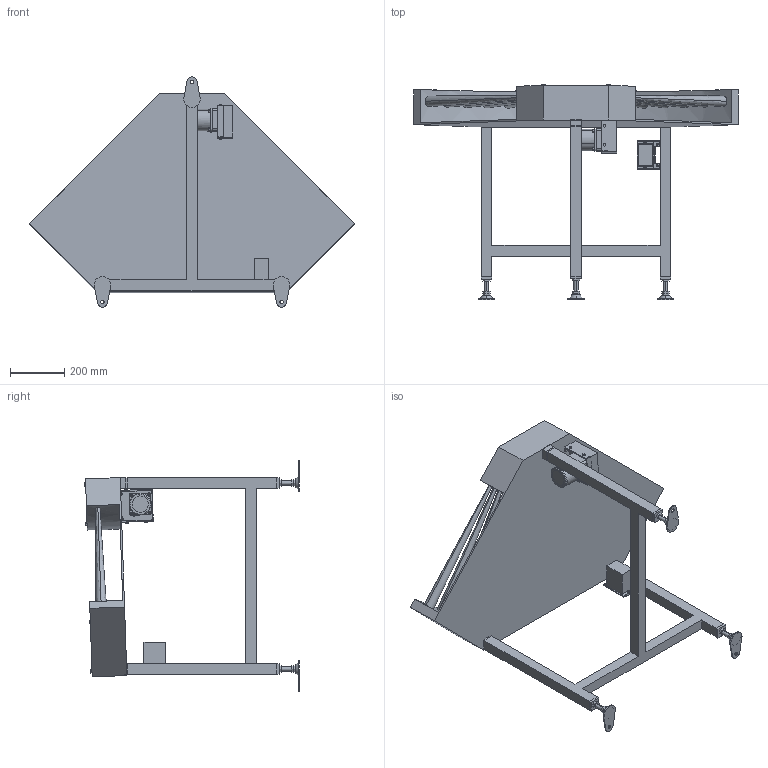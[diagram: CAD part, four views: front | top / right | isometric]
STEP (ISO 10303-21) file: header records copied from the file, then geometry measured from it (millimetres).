
FILE_DESCRIPTION( (''), '2;1');
FILE_NAME ('GT10H-303-500-L-K-75.stp','2025-02-17T15:48:38',(''),(''),'spGate 20.6.2 (****-****-****-****)','','');
FILE_SCHEMA (('AUTOMOTIVE_DESIGN'));
Length unit declared in the file: millimetre
Products named in the file (44): NewModel; TEMP_X_T-prt0; TEMP_X_T-prt1; TEMP_X_T-prt2; TEMP_X_T-prt3; TEMP_X_T-prt4; TEMP_X_T-prt5; TEMP_X_T-prt6; TEMP_X_T-prt7; TEMP_X_T-prt8; TEMP_X_T-prt9; TEMP_X_T-prt10; TEMP_X_T-prt11; TEMP_X_T-prt12; TEMP_X_T-prt13; TEMP_X_T-prt14; TEMP_X_T-prt15; TEMP_X_T-prt16; TEMP_X_T-prt17; TEMP_X_T-prt18; TEMP_X_T-prt19; TEMP_X_T-prt20; TEMP_X_T-prt21; TEMP_X_T-prt22; TEMP_X_T-prt23; TEMP_X_T-prt24; TEMP_X_T-prt25; TEMP_X_T-prt26; TEMP_X_T-prt27; TEMP_X_T-prt28; TEMP_X_T-prt29; TEMP_X_T-prt30; TEMP_X_T-prt31; TEMP_X_T-prt32; TEMP_X_T-prt33; TEMP_X_T-prt34; TEMP_X_T-prt35; TEMP_X_T-prt36; TEMP_X_T-prt37; TEMP_X_T-prt38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
Assembly tree (43 placements, depth 2):
  NewModel
    TEMP_X_T-prt0
    TEMP_X_T-prt1
    TEMP_X_T-prt2
    TEMP_X_T-prt3
    TEMP_X_T-prt4
    TEMP_X_T-prt5
    TEMP_X_T-prt6
    TEMP_X_T-prt7
    TEMP_X_T-prt8
    TEMP_X_T-prt9
    TEMP_X_T-prt10
    TEMP_X_T-prt11
    TEMP_X_T-prt12
    TEMP_X_T-prt13
    TEMP_X_T-prt14
    TEMP_X_T-prt15
    TEMP_X_T-prt16
    TEMP_X_T-prt17
    TEMP_X_T-prt18
    TEMP_X_T-prt19
    TEMP_X_T-prt20
    TEMP_X_T-prt21
    TEMP_X_T-prt22
    TEMP_X_T-prt23
    TEMP_X_T-prt24
    TEMP_X_T-prt25
    TEMP_X_T-prt26
    TEMP_X_T-prt27
    TEMP_X_T-prt28
    TEMP_X_T-prt29
    TEMP_X_T-prt30
    TEMP_X_T-prt31
    TEMP_X_T-prt32
    TEMP_X_T-prt33
    TEMP_X_T-prt34
    TEMP_X_T-prt35
    TEMP_X_T-prt36
    TEMP_X_T-prt37
    TEMP_X_T-prt38
    TEMP_X_T-prt39
    TEMP_X_T-prt40
    TEMP_X_T-prt41
    TEMP_X_T-prt42
Bounding box: 1195.01 x 792.11 x 849 mm (x, y, z)
Volume: 31890159.7 mm3; surface area: 3011446.2 mm2
Topology: 43 solids, 43 shells, 1050 faces, 2460 edges, 1548 vertices
Faces by surface type: plane 597, cylinder 252, bspline 201
Entity records: 55561 total; most frequent: CARTESIAN_POINT 11389, ORIENTED_EDGE 4880, DIRECTION 4516, COLOUR_RGB 3533, PRESENTATION_STYLE_ASSIGNMENT 3533, STYLED_ITEM 3533, EDGE_CURVE 2440, DRAUGHTING_PRE_DEFINED_CURVE_FONT 2440
